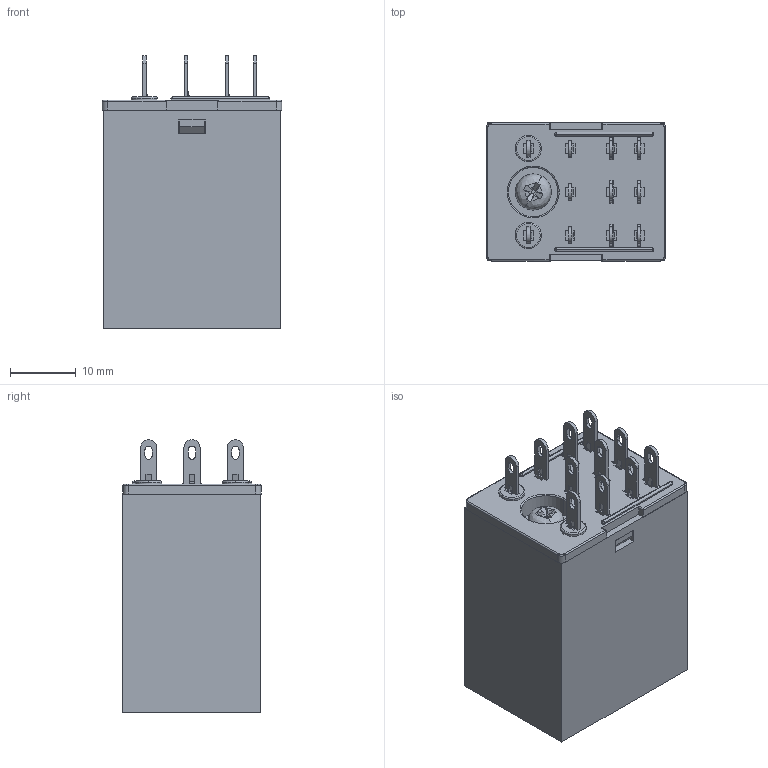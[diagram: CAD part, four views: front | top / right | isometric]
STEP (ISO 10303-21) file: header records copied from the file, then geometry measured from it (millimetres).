
FILE_DESCRIPTION((''),'2;1');
FILE_NAME('68B3Z__ASM','2019-03-19T',('QDP'),(''),'PRO/ENGINEER BY PARAMETRIC TECHNOLOGY CORPORATION, 2009440','PRO/ENGINEER BY PARAMETRIC TECHNOLOGY CORPORATION, 2009440','');
FILE_SCHEMA(('CONFIG_CONTROL_DESIGN'));
Products named in the file (26): PRT0088; PRT0089; PRODUCT_17421; PRT0090; PRT0092; PRT0093; PRT0094; 68BZ3Z________; PRT0095; PRT0096; PRT0097; 68BZ3Z___________ASM; 68A2Z______-56543; 68BZ3Z_______________ASM; PRT0099; 68B3Z____; 68A2ZDC____-63801; 68A2ZDC____-46599; PRT0102; PRT0103; 68A2Z______-33056; PRT0104; PRODUCT_9823_ASM; 68A3Z_______ASM; HOUSING_ER; 68B3Z__ASM
Assembly tree (42 placements, depth 5):
  68B3Z__ASM
    68A3Z_______ASM
      PRT0088  x5
      PRT0089  x6
      PRODUCT_17421
      PRT0090  x6
      68BZ3Z_______________ASM
        PRT0092  x3
        PRT0093
        PRT0094
        68BZ3Z________
        68BZ3Z___________ASM
          PRT0095
          PRT0096
          PRT0097
        68A2Z______-56543  x2
      PRT0099
      68B3Z____
      PRODUCT_9823_ASM
        68A2ZDC____-63801
        68A2ZDC____-46599
        PRT0102
        PRT0103
        68A2Z______-33056
        PRT0104
    HOUSING_ER
Bounding box: 27.3 x 21 x 41.5 mm (x, y, z)
Volume: 10130.5 mm3; surface area: 18805.4 mm2
Topology: 38 solids, 38 shells, 2526 faces, 6481 edges, 4141 vertices
Faces by surface type: plane 1661, cylinder 665, torus 63, bspline 53, sphere 44, cone 31, extrusion 5, revolution 4
Entity records: 92588 total; most frequent: CARTESIAN_POINT 49695, ORIENTED_EDGE 8902, DIRECTION 8631, EDGE_CURVE 4451, VECTOR 3267, LINE 3266, VERTEX_POINT 2819, AXIS2_PLACEMENT_3D 2680
